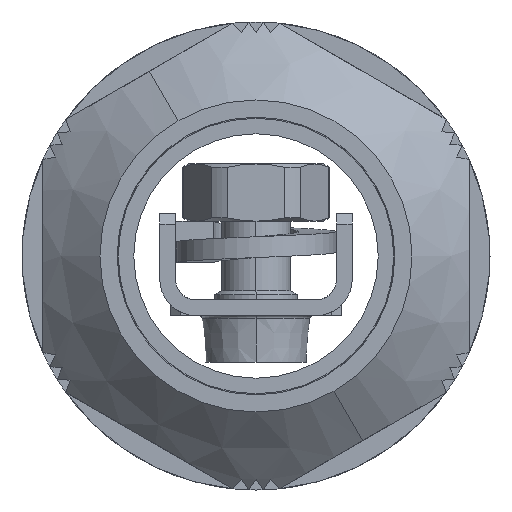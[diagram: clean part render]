
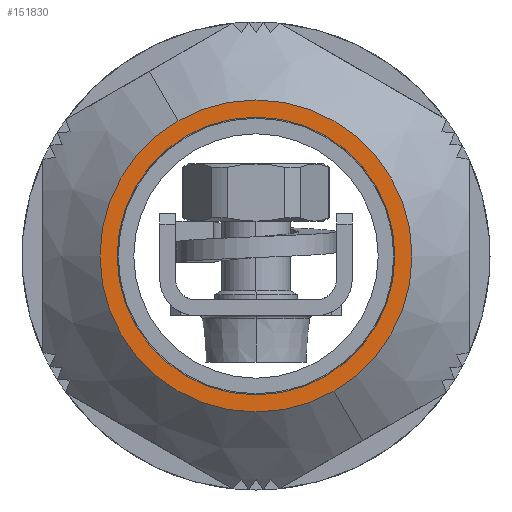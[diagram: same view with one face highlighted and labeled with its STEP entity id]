
A CAD part, left-side view. The second image highlights one B-rep face of the part: STEP entity #151830.
In plain terms, the highlighted planar face has unit normal (-1, 0, 0) as drawn and (0, 0, -1) by its records, which use the part's own axes.
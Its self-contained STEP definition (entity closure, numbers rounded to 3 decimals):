
#146070=CARTESIAN_POINT('',(12.99,-7.5,
-106.838));
#146080=VERTEX_POINT('',#146070);
#151440=CARTESIAN_POINT('',(-12.99,7.5,-106.838));
#151450=VERTEX_POINT('',#151440);
#151480=CARTESIAN_POINT('',(0.,0.,
-106.838));
#151490=DIRECTION('',(0.,0.,1.));
#151500=DIRECTION('',(-0.866,0.5,0.));
#151510=AXIS2_PLACEMENT_3D('',#151480,#151490,#151500);
#151520=CIRCLE('',#151510,15.);
#151530=EDGE_CURVE('',#146080,#151450,#151520,.T.);
#151580=CARTESIAN_POINT('',(0.,0.,-106.838))
;
#151590=DIRECTION('',(0.,0.,-1.));
#151600=DIRECTION('',(1.,0.,0.));
#151610=AXIS2_PLACEMENT_3D('',#151580,#151590,#151600);
#151620=PLANE('',#151610);
#151630=EDGE_CURVE('',#151450,#146080,#151520,.T.);
#151640=ORIENTED_EDGE('',*,*,#151630,.F.);
#151650=ORIENTED_EDGE('',*,*,#151530,.F.);
#151660=EDGE_LOOP('',(#151650,#151640));
#151670=FACE_OUTER_BOUND('',#151660,.T.);
#151680=CARTESIAN_POINT('',(0.,0.,
-106.838));
#151690=DIRECTION('',(0.,0.,-1.));
#151700=DIRECTION('',(0.866,-0.5,0.));
#151710=AXIS2_PLACEMENT_3D('',#151680,#151690,#151700);
#151720=CIRCLE('',#151710,13.35);
#151730=CARTESIAN_POINT('',(-11.561,6.675,-106.838));
#151740=VERTEX_POINT('',#151730);
#151750=CARTESIAN_POINT('',(11.561,-6.675,-106.838));
#151760=VERTEX_POINT('',#151750);
#151770=EDGE_CURVE('',#151740,#151760,#151720,.T.);
#151780=ORIENTED_EDGE('',*,*,#151770,.F.);
#151790=EDGE_CURVE('',#151760,#151740,#151720,.T.);
#151800=ORIENTED_EDGE('',*,*,#151790,.F.);
#151810=EDGE_LOOP('',(#151800,#151780));
#151820=FACE_BOUND('',#151810,.T.);
#151830=ADVANCED_FACE('',(#151670,#151820),#151620,.T.);
